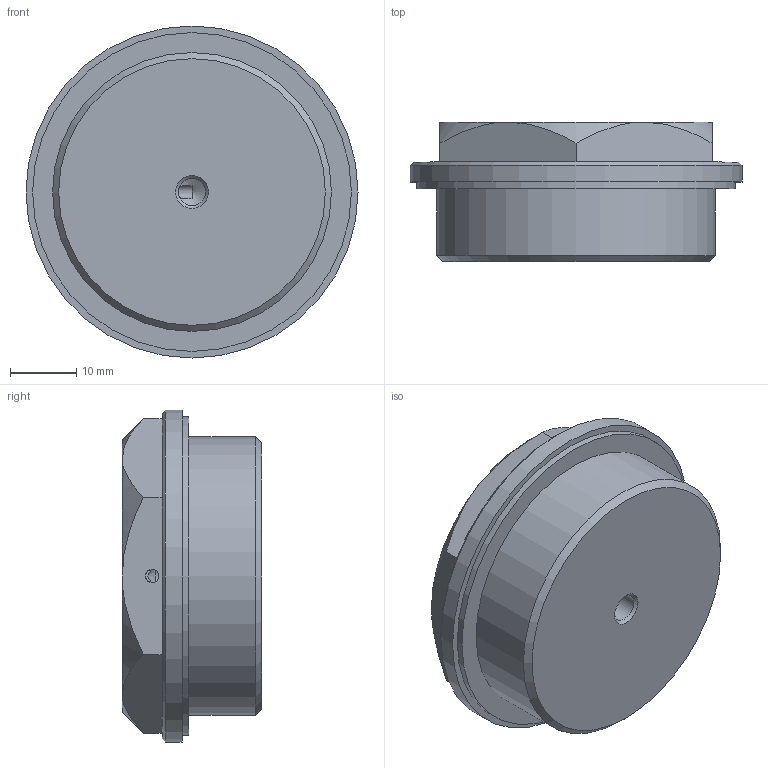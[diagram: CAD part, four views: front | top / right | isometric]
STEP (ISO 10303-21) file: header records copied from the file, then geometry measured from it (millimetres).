
FILE_DESCRIPTION( ( 'STEP AP203' ), '1' );
FILE_NAME( 'C:/Temp/Ganter_Step_05_03_2020/data/3_5/gn742/gn742_2/Threaded plug GN 742-50-M42x1,5-ASS-2.stp', '2020-03-12T13:39:29', ( 'License CC BY-ND 4.0' ), ( 'CADENAS' ), ' ', 'PARTsolutions', ' ' );
FILE_SCHEMA( ( 'CONFIG_CONTROL_DESIGN' ) );
Length unit declared in the file: millimetre
Products named in the file (1): _Threaded plug GN 742-50-M42x1,5-ASS-2
Bounding box: 50 x 21 x 50 mm (x, y, z)
Volume: 31183.6 mm3; surface area: 6961.8 mm2
Topology: 1 solids, 1 shells, 54 faces, 134 edges, 86 vertices
Faces by surface type: plane 39, cone 10, cylinder 5
Full cylindrical faces by diameter (mm): 2 x1, 4.134 x1, 42 x1, 48 x1, 50 x1
Entity records: 1651 total; most frequent: CARTESIAN_POINT 381, ORIENTED_EDGE 246, DIRECTION 237, EDGE_CURVE 123, LINE 89, VECTOR 89, VERTEX_POINT 84, AXIS2_PLACEMENT_3D 74
